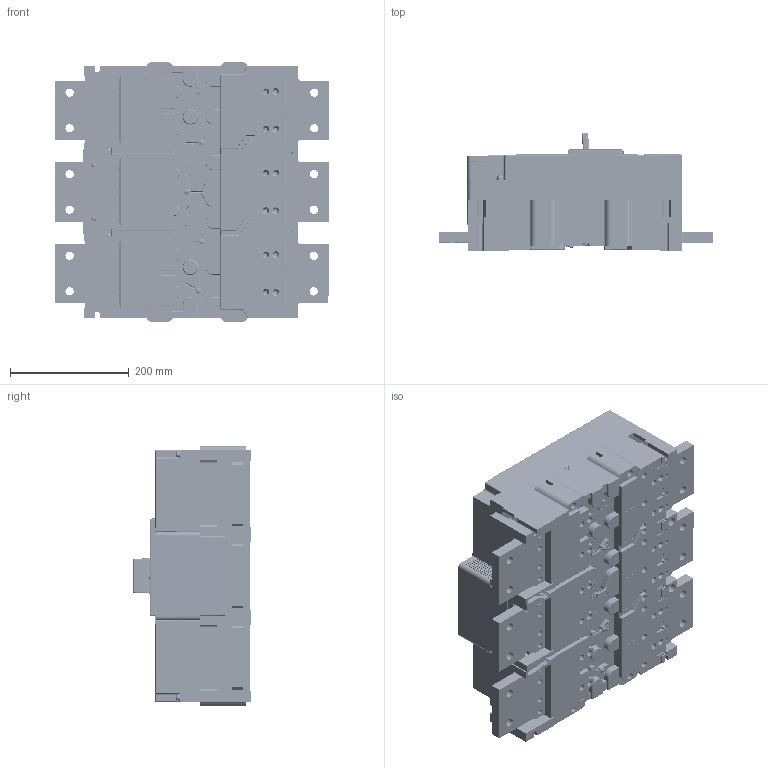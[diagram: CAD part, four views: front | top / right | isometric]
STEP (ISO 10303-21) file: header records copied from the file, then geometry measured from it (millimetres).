
FILE_DESCRIPTION (( 'STEP AP203' ), '1' );
FILE_NAME ('ﾂﾀ55-43-1600 ﾀ.STEP', '2016-09-28T13:35:18', ( 'admin' ), ( '' ), 'SwSTEP 2.0', 'SolidWorks 2012', '' );
FILE_SCHEMA (( 'CONFIG_CONTROL_DESIGN' ));
Products named in the file (1): ﾂﾀ55-43-1600 ﾀ
Bounding box: 462.82 x 200.03 x 438 mm (x, y, z)
Volume: 21304662.2 mm3; surface area: 2099672.9 mm2
Topology: 154 solids, 154 shells, 11009 faces, 27880 edges, 17580 vertices
Faces by surface type: plane 5378, cylinder 3082, bspline 1510, cone 696, torus 265, sphere 78
Entity records: 385092 total; most frequent: CARTESIAN_POINT 127960, ORIENTED_EDGE 55632, DIRECTION 49605, EDGE_CURVE 27816, VERTEX_POINT 17580, LINE 17275, VECTOR 17275, AXIS2_PLACEMENT_3D 16165
